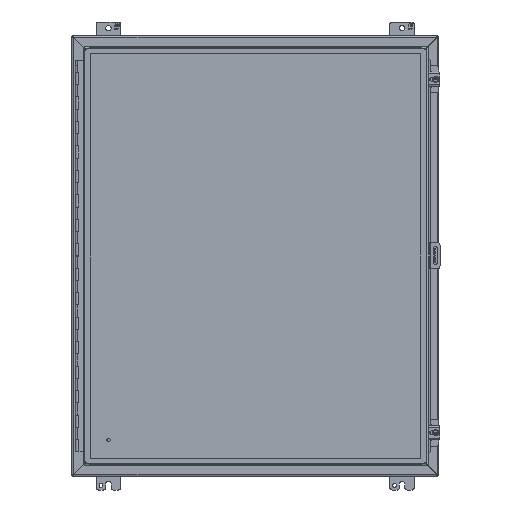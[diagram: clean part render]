
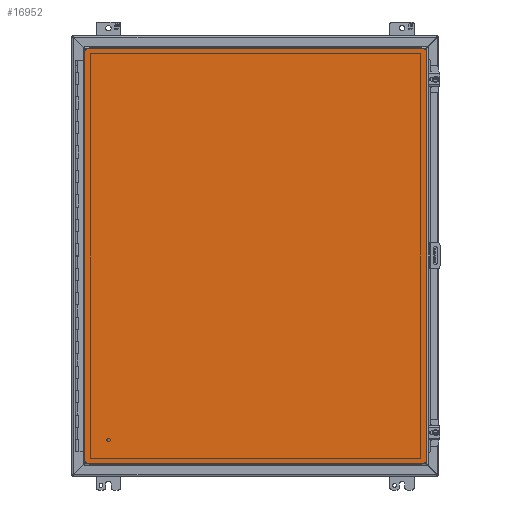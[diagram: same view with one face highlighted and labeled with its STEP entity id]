
A CAD part, front view. The second image highlights one B-rep face of the part: STEP entity #16952.
In plain terms, the highlighted planar face has unit normal (0, -1, 0).
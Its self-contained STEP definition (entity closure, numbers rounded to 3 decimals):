
#2844=ORIENTED_EDGE('',*,*,#7182,.T.);
#2845=ORIENTED_EDGE('',*,*,#7183,.T.);
#2846=ORIENTED_EDGE('',*,*,#7184,.T.);
#2847=ORIENTED_EDGE('',*,*,#7185,.T.);
#7182=EDGE_CURVE('',#9463,#9464,#11090,.T.);
#7183=EDGE_CURVE('',#9464,#9465,#11091,.T.);
#7184=EDGE_CURVE('',#9465,#9466,#11092,.T.);
#7185=EDGE_CURVE('',#9466,#9463,#11093,.T.);
#9463=VERTEX_POINT('',#25673);
#9464=VERTEX_POINT('',#25674);
#9465=VERTEX_POINT('',#25676);
#9466=VERTEX_POINT('',#25678);
#11090=LINE('',#25672,#12712);
#11091=LINE('',#25675,#12713);
#11092=LINE('',#25677,#12714);
#11093=LINE('',#25679,#12715);
#12712=VECTOR('',#20910,1000.);
#12713=VECTOR('',#20911,1000.);
#12714=VECTOR('',#20912,1000.);
#12715=VECTOR('',#20913,1000.);
#14184=EDGE_LOOP('',(#2844,#2845,#2846,#2847));
#15270=FACE_BOUND('',#14184,.T.);
#16236=PLANE('',#18592);
#16952=ADVANCED_FACE('',(#15270),#16236,.T.);
#18592=AXIS2_PLACEMENT_3D('',#25671,#20908,#20909);
#20908=DIRECTION('',(0.,-1.,0.));
#20909=DIRECTION('',(0.,0.,-1.));
#20910=DIRECTION('',(0.,0.,-1.));
#20911=DIRECTION('',(1.,0.,0.));
#20912=DIRECTION('',(0.,0.,1.));
#20913=DIRECTION('',(-1.,0.,0.));
#25671=CARTESIAN_POINT('',(-355.244,0.,-431.66));
#25672=CARTESIAN_POINT('',(-355.244,0.,431.66));
#25673=CARTESIAN_POINT('',(-355.244,0.,431.66));
#25674=CARTESIAN_POINT('',(-355.244,0.,-431.66));
#25675=CARTESIAN_POINT('',(-355.244,0.,-431.66));
#25676=CARTESIAN_POINT('',(355.244,0.,-431.66));
#25677=CARTESIAN_POINT('',(355.244,0.,-431.66));
#25678=CARTESIAN_POINT('',(355.244,0.,431.66));
#25679=CARTESIAN_POINT('',(355.244,0.,431.66));
